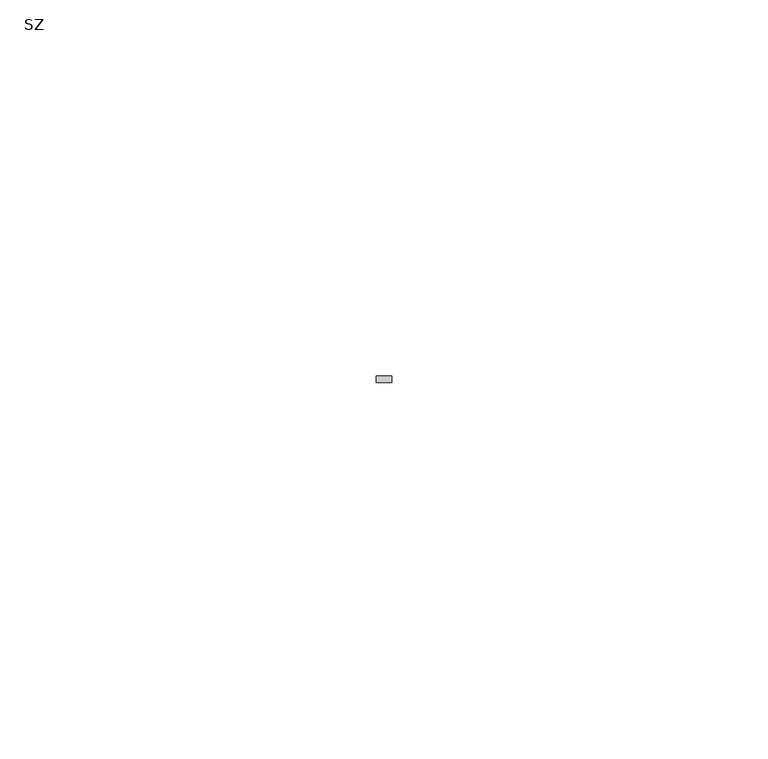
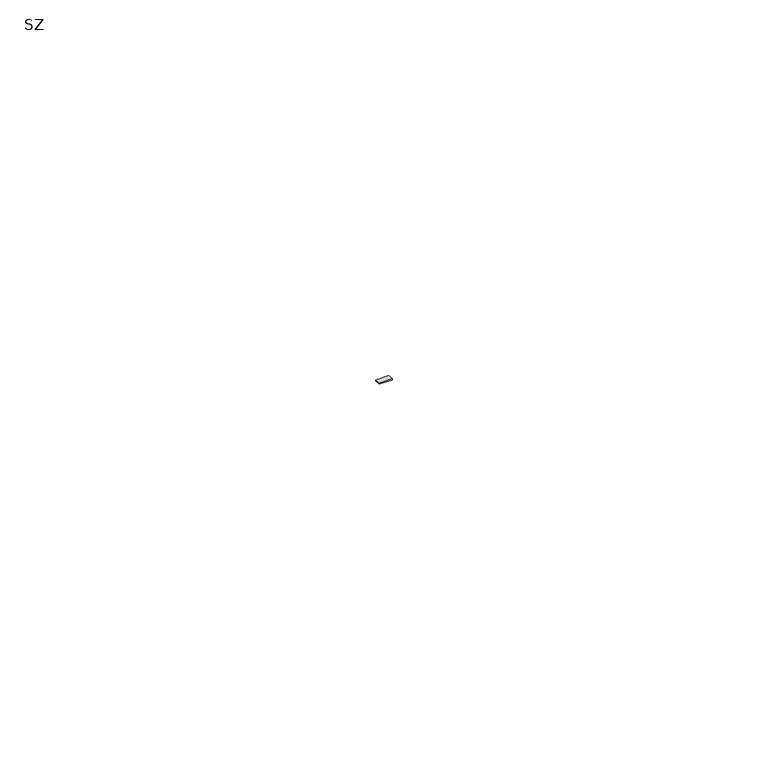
"""IFC4 building model written with IfcOpenShell, lengths in millimetres: cable carrier fitting geometry, ⚠_IEK_Листовой_Пластина шарнирная : SZ."""

from ifc_helpers import new_model, si_unit, origin, origin_with_axes, place, context, project, spatial, polyline, outline, extrude, source, transform, mapped, element, save


def sz_a67ddfbb(model_context):
    return source(origin(), model_context, "Body", "SweptSolid", [
        extrude(outline(polyline([(-1.0, -0.8071845), (-1.0, 0.0), (1.0, 0.0), (1.0, -0.8071845), (-1.0, -0.8071845)])), origin_with_axes(), (0.0, 0.0, 1.0), 0.1817944),
    ])


if __name__ == "__main__":
    model = new_model("IFC4")
    model_context = context("Model", 3, world=origin())
    ifc_project = project(units=[si_unit("LENGTHUNIT", "METRE", prefix="MILLI")], contexts=[model_context])
    site = spatial("IfcSite", under=ifc_project)
    building = spatial("IfcBuilding", under=site)
    placement = place(None, origin())
    sz_shape = sz_a67ddfbb(model_context)
    element("IfcCableCarrierFitting", 1, ObjectType="⚠_IEK_Листовой_Пластина шарнирная : SZ", at=placement, inside=building, context=model_context, shape_type="MappedRepresentation", body=[
        mapped(sz_shape, transform((0.0, 0.0, 0.0), x_axis=(1.0, 0.0, 0.0), y_axis=(0.0, 1.0, 0.0), z_axis=(0.0, 0.0, 1.0))),
    ])
    save(model, "model.ifc")
